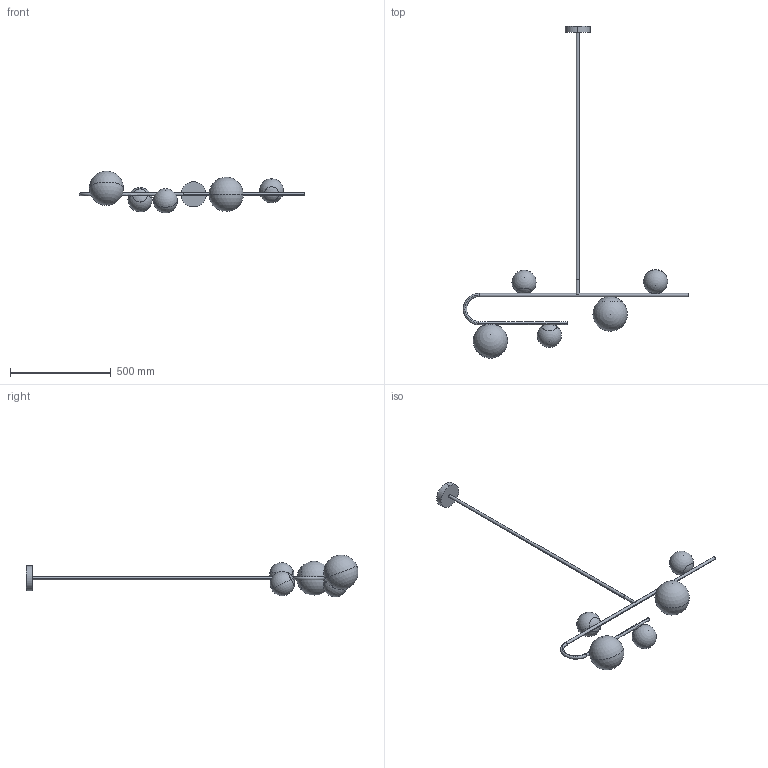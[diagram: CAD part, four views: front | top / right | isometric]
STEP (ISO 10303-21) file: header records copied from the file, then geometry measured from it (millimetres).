
FILE_DESCRIPTION (( 'STEP AP203' ), '1' );
FILE_NAME ('DECH2_Decor sospensione 164h.STEP', '2024-08-06T08:44:39', ( '' ), ( '' ), 'SwSTEP 2.0', 'SolidWorks 2022', '' );
FILE_SCHEMA (( 'CONFIG_CONTROL_DESIGN' ));
Length unit declared in the file: millimetre
Products named in the file (2): DECOR SOSPENSIONE2 164; DECH2_Decor sospensione 164h
Assembly tree (1 placements, depth 2):
  DECH2_Decor sospensione 164h
    DECOR SOSPENSIONE2 164
Bounding box: 1115.91 x 1644.79 x 206.55 mm (x, y, z)
Surface area: 578546.5 mm2 (no closed solid volume)
Topology: 0 solids, 13 shells, 62 faces, 143 edges, 97 vertices
Faces by surface type: sphere 30, cone 10, cylinder 8, bspline 6, plane 6, torus 2
Entity records: 2474 total; most frequent: CARTESIAN_POINT 996, DIRECTION 314, ORIENTED_EDGE 234, AXIS2_PLACEMENT_3D 148, EDGE_CURVE 118, CIRCLE 88, VERTEX_POINT 82, EDGE_LOOP 63
